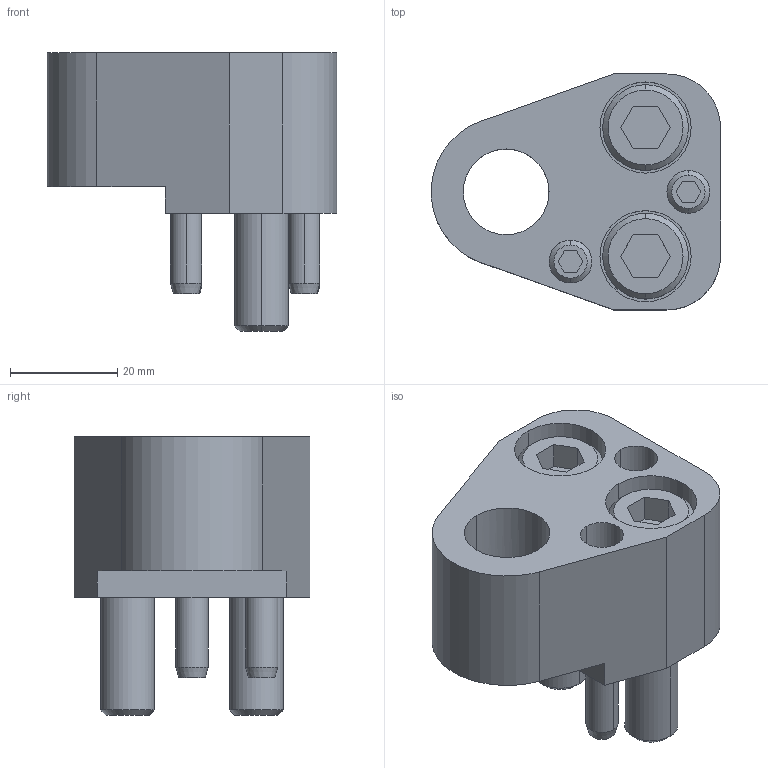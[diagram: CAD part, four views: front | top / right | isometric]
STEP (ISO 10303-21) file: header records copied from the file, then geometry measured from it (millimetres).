
FILE_DESCRIPTION(/* description */ (''),/* implementation_level */ '2;1');
FILE_NAME(/* name */ '3d_hdpfr16_04045_r00.stp',/* time_stamp */ '2011-01-10T14:14:52+09:00',/* author */ ('MISUMI'),/* organization */ (''),/* preprocessor_version */ 'ST-DEVELOPER v11',/* originating_system */ 'UGS - NX 5.0',/* authorisation */ '');
FILE_SCHEMA (('CONFIG_CONTROL_DESIGN'));
Length unit declared in the file: millimetre
Products named in the file (1): 3d_hdpfr16_04045_r00
Bounding box: 53.95 x 44 x 52 mm (x, y, z)
Volume: 49092.8 mm3; surface area: 19334 mm2
Topology: 7 solids, 7 shells, 134 faces, 298 edges, 191 vertices
Faces by surface type: plane 61, cylinder 47, cone 26
Entity records: 3858 total; most frequent: CARTESIAN_POINT 683, DIRECTION 682, ORIENTED_EDGE 596, EDGE_CURVE 298, AXIS2_PLACEMENT_3D 256, VERTEX_POINT 191, LINE 170, VECTOR 170
